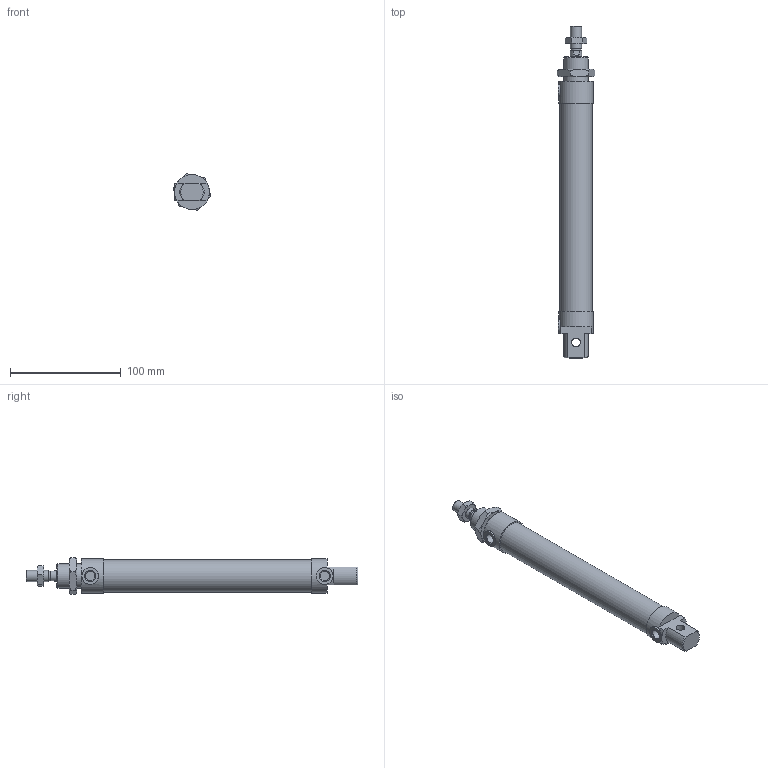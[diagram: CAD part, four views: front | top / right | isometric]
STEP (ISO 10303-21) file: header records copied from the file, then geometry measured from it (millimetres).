
FILE_DESCRIPTION((''),'2;1');
FILE_NAME('L:\Lib-3d\1200\CILINDRI\1230\1230_25_0160.stp','2006-01-05T12:04:48',('medicfa1'),(''),'Autodesk Inventor 10','Autodesk Inventor 10','');
FILE_SCHEMA(('AUTOMOTIVE_DESIGN { 1 0 10303 214 1 1 1 1 }'));
Length unit declared in the file: millimetre
Products named in the file (5): 1230_25_0160; C1230_25_160; S1230_25_160; 1200_25_05; 1200_25_06
Assembly tree (4 placements, depth 2):
  1230_25_0160
    C1230_25_160
    S1230_25_160
    1200_25_05
    1200_25_06
Bounding box: 33.84 x 300 x 33.01 mm (x, y, z)
Volume: 173451.5 mm3; surface area: 43194.3 mm2
Topology: 4 solids, 4 shells, 93 faces, 203 edges, 125 vertices
Faces by surface type: plane 43, cone 30, cylinder 15, bspline 5
Full cylindrical faces by diameter (mm): 8 x1, 8.7 x2, 8.8 x1, 10 x3, 15 x2, 22 x1, 29 x1, 31.5 x2
Entity records: 2624 total; most frequent: CARTESIAN_POINT 735, DIRECTION 382, ORIENTED_EDGE 336, AXIS2_PLACEMENT_3D 171, EDGE_CURVE 168, EDGE_LOOP 130, VERTEX_POINT 114, FACE_OUTER_BOUND 93
